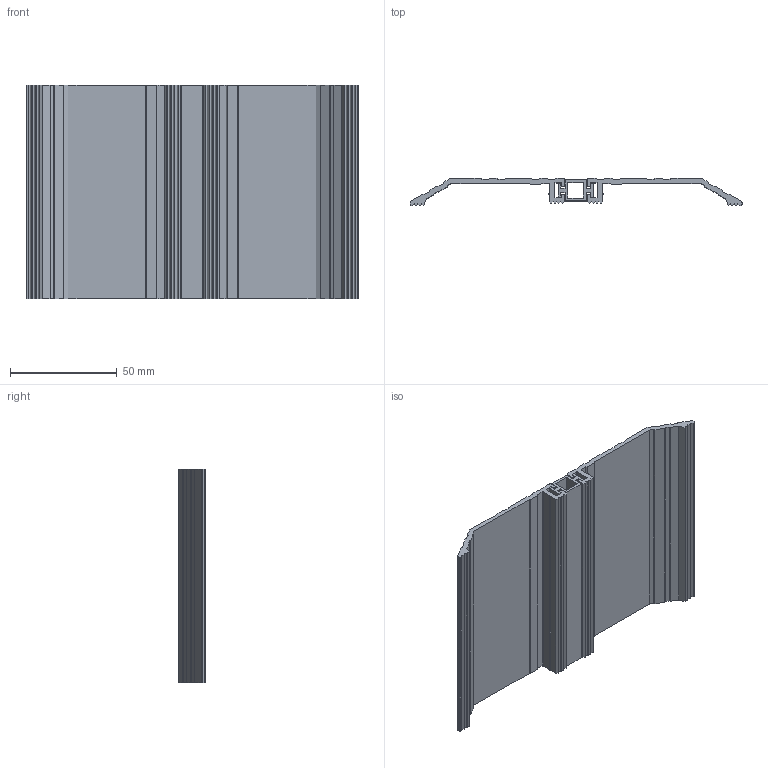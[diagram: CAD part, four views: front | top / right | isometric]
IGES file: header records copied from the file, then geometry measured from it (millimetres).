
Global section: file name: No Iges File Name specified; native system: Autodesk Inventor 2012; preprocessor: AutoDesk Inventor Iges Exporter R2012; author: anna.b; date: 20130725.115159; units: millimetre
Bounding box: 155.83 x 12.7 x 100 mm (x, y, z)
Volume: 49298.9 mm3; surface area: 50159.8 mm2
Topology: 3 solids, 3 shells, 202 faces, 588 edges, 392 vertices
Faces by surface type: plane 176, cylinder 16, revolution 10
